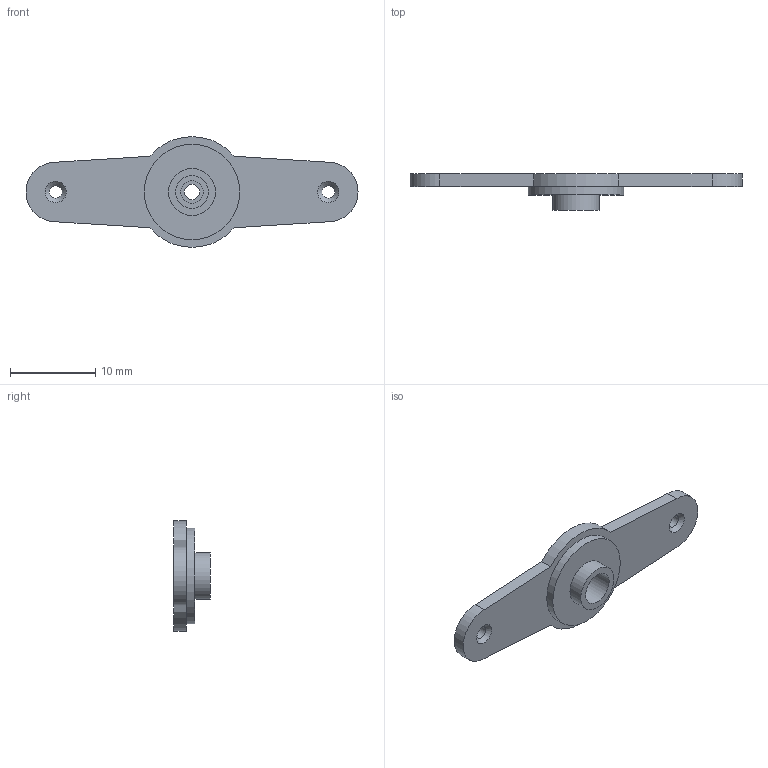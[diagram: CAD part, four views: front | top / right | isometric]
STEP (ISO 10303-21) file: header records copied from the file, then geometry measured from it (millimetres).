
FILE_DESCRIPTION(/* description */ (''),/* implementation_level */ '2;1');
FILE_NAME(/* name */ '/Users/simonhu/OneDrive - FH JOANNEUM/5Semsester/Projekt/3D/turret_final/servo_adapt_1.step',/* time_stamp */ '2022-01-27T19:25:56+01:00',/* author */ (''),/* organization */ (''),/* preprocessor_version */ 'ST-DEVELOPER v18.1',/* originating_system */ 'Autodesk Translation Framework v10.13.0.1454',/* authorisation */ '');
FILE_SCHEMA (('AUTOMOTIVE_DESIGN { 1 0 10303 214 3 1 1 }'));
Length unit declared in the file: millimetre
Products named in the file (1): servo_arm
Bounding box: 39 x 4.3 x 13 mm (x, y, z)
Volume: 579 mm3; surface area: 891.8 mm2
Topology: 1 solids, 1 shells, 25 faces, 52 edges, 34 vertices
Faces by surface type: cylinder 12, plane 11, cone 2
Full cylindrical faces by diameter (mm): 1.5 x2, 1.8 x1, 2.7 x1, 3.5 x1, 3.9 x1, 5.5 x1, 11.2 x1
Entity records: 728 total; most frequent: DIRECTION 130, CARTESIAN_POINT 112, ORIENTED_EDGE 104, EDGE_CURVE 52, AXIS2_PLACEMENT_3D 52, EDGE_LOOP 36, VERTEX_POINT 34, LINE 26
